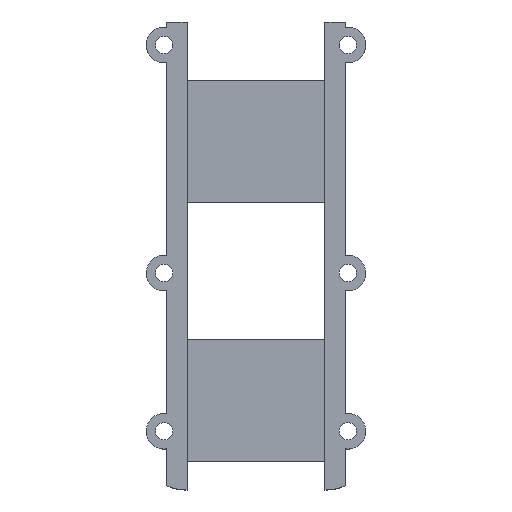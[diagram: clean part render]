
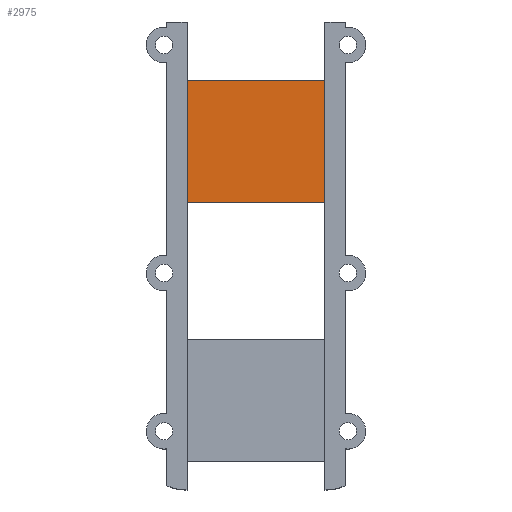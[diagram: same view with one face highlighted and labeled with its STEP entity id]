
A CAD part, top view. The second image highlights one B-rep face of the part: STEP entity #2975.
In plain terms, the highlighted planar face has unit normal (0, 0, 1).
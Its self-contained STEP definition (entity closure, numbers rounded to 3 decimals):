
#126 = PLANE('',#127);
#127 = AXIS2_PLACEMENT_3D('',#128,#129,#130);
#128 = CARTESIAN_POINT('',(10.5,95.2,-7.));
#129 = DIRECTION('',(1.,0.,-0.));
#130 = DIRECTION('',(0.,-1.,0.));
#233 = PLANE('',#234);
#234 = AXIS2_PLACEMENT_3D('',#235,#236,#237);
#235 = CARTESIAN_POINT('',(37.5,1.5,-7.));
#236 = DIRECTION('',(-1.,0.,0.));
#237 = DIRECTION('',(0.,1.,0.));
#568 = PLANE('',#569);
#569 = AXIS2_PLACEMENT_3D('',#570,#571,#572);
#570 = CARTESIAN_POINT('',(38.5,82.8,-8.));
#571 = DIRECTION('',(0.,-1.,0.));
#572 = DIRECTION('',(-1.,0.,0.));
#988 = PLANE('',#989);
#989 = AXIS2_PLACEMENT_3D('',#990,#991,#992);
#990 = CARTESIAN_POINT('',(9.5,58.8,-8.));
#991 = DIRECTION('',(0.,1.,0.));
#992 = DIRECTION('',(1.,0.,0.));
#1547 = VERTEX_POINT('',#1548);
#1548 = CARTESIAN_POINT('',(10.5,58.8,-3.6));
#1568 = EDGE_CURVE('',#1569,#1547,#1571,.T.);
#1569 = VERTEX_POINT('',#1570);
#1570 = CARTESIAN_POINT('',(10.5,82.8,-3.6));
#1571 = SURFACE_CURVE('',#1572,(#1576,#1583),.PCURVE_S1.);
#1572 = LINE('',#1573,#1574);
#1573 = CARTESIAN_POINT('',(10.5,95.2,-3.6));
#1574 = VECTOR('',#1575,1.);
#1575 = DIRECTION('',(0.,-1.,0.));
#1576 = PCURVE('',#126,#1577);
#1577 = DEFINITIONAL_REPRESENTATION('',(#1578),#1582);
#1578 = LINE('',#1579,#1580);
#1579 = CARTESIAN_POINT('',(0.,-3.4));
#1580 = VECTOR('',#1581,1.);
#1581 = DIRECTION('',(1.,0.));
#1582 = ( GEOMETRIC_REPRESENTATION_CONTEXT(2) 
PARAMETRIC_REPRESENTATION_CONTEXT() REPRESENTATION_CONTEXT('2D SPACE',''
  ) );
#1583 = PCURVE('',#1584,#1589);
#1584 = PLANE('',#1585);
#1585 = AXIS2_PLACEMENT_3D('',#1586,#1587,#1588);
#1586 = CARTESIAN_POINT('',(24.,48.35,-3.6));
#1587 = DIRECTION('',(0.,0.,1.));
#1588 = DIRECTION('',(1.,0.,-0.));
#1589 = DEFINITIONAL_REPRESENTATION('',(#1590),#1594);
#1590 = LINE('',#1591,#1592);
#1591 = CARTESIAN_POINT('',(-13.5,46.85));
#1592 = VECTOR('',#1593,1.);
#1593 = DIRECTION('',(0.,-1.));
#1594 = ( GEOMETRIC_REPRESENTATION_CONTEXT(2) 
PARAMETRIC_REPRESENTATION_CONTEXT() REPRESENTATION_CONTEXT('2D SPACE',''
  ) );
#1767 = VERTEX_POINT('',#1768);
#1768 = CARTESIAN_POINT('',(37.5,82.8,-3.6));
#1788 = EDGE_CURVE('',#1789,#1767,#1791,.T.);
#1789 = VERTEX_POINT('',#1790);
#1790 = CARTESIAN_POINT('',(37.5,58.8,-3.6));
#1791 = SURFACE_CURVE('',#1792,(#1796,#1803),.PCURVE_S1.);
#1792 = LINE('',#1793,#1794);
#1793 = CARTESIAN_POINT('',(37.5,1.5,-3.6));
#1794 = VECTOR('',#1795,1.);
#1795 = DIRECTION('',(0.,1.,0.));
#1796 = PCURVE('',#233,#1797);
#1797 = DEFINITIONAL_REPRESENTATION('',(#1798),#1802);
#1798 = LINE('',#1799,#1800);
#1799 = CARTESIAN_POINT('',(0.,-3.4));
#1800 = VECTOR('',#1801,1.);
#1801 = DIRECTION('',(1.,0.));
#1802 = ( GEOMETRIC_REPRESENTATION_CONTEXT(2) 
PARAMETRIC_REPRESENTATION_CONTEXT() REPRESENTATION_CONTEXT('2D SPACE',''
  ) );
#1803 = PCURVE('',#1584,#1804);
#1804 = DEFINITIONAL_REPRESENTATION('',(#1805),#1809);
#1805 = LINE('',#1806,#1807);
#1806 = CARTESIAN_POINT('',(13.5,-46.85));
#1807 = VECTOR('',#1808,1.);
#1808 = DIRECTION('',(0.,1.));
#1809 = ( GEOMETRIC_REPRESENTATION_CONTEXT(2) 
PARAMETRIC_REPRESENTATION_CONTEXT() REPRESENTATION_CONTEXT('2D SPACE',''
  ) );
#2349 = EDGE_CURVE('',#1569,#1767,#2350,.T.);
#2350 = SURFACE_CURVE('',#2351,(#2355,#2361),.PCURVE_S1.);
#2351 = LINE('',#2352,#2353);
#2352 = CARTESIAN_POINT('',(31.25,82.8,-3.6));
#2353 = VECTOR('',#2354,1.);
#2354 = DIRECTION('',(1.,0.,-0.));
#2355 = PCURVE('',#568,#2356);
#2356 = DEFINITIONAL_REPRESENTATION('',(#2357),#2360);
#2357 = B_SPLINE_CURVE_WITH_KNOTS('',1,(#2358,#2359),.UNSPECIFIED.,.F.,
  .F.,(2,2),(-20.75,6.25),.PIECEWISE_BEZIER_KNOTS.);
#2358 = CARTESIAN_POINT('',(28.,-4.4));
#2359 = CARTESIAN_POINT('',(1.,-4.4));
#2360 = ( GEOMETRIC_REPRESENTATION_CONTEXT(2) 
PARAMETRIC_REPRESENTATION_CONTEXT() REPRESENTATION_CONTEXT('2D SPACE',''
  ) );
#2361 = PCURVE('',#1584,#2362);
#2362 = DEFINITIONAL_REPRESENTATION('',(#2363),#2367);
#2363 = LINE('',#2364,#2365);
#2364 = CARTESIAN_POINT('',(7.25,34.45));
#2365 = VECTOR('',#2366,1.);
#2366 = DIRECTION('',(1.,0.));
#2367 = ( GEOMETRIC_REPRESENTATION_CONTEXT(2) 
PARAMETRIC_REPRESENTATION_CONTEXT() REPRESENTATION_CONTEXT('2D SPACE',''
  ) );
#2717 = EDGE_CURVE('',#1789,#1547,#2718,.T.);
#2718 = SURFACE_CURVE('',#2719,(#2723,#2729),.PCURVE_S1.);
#2719 = LINE('',#2720,#2721);
#2720 = CARTESIAN_POINT('',(16.75,58.8,-3.6));
#2721 = VECTOR('',#2722,1.);
#2722 = DIRECTION('',(-1.,0.,0.));
#2723 = PCURVE('',#988,#2724);
#2724 = DEFINITIONAL_REPRESENTATION('',(#2725),#2728);
#2725 = B_SPLINE_CURVE_WITH_KNOTS('',1,(#2726,#2727),.UNSPECIFIED.,.F.,
  .F.,(2,2),(-20.75,6.25),.PIECEWISE_BEZIER_KNOTS.);
#2726 = CARTESIAN_POINT('',(28.,-4.4));
#2727 = CARTESIAN_POINT('',(1.,-4.4));
#2728 = ( GEOMETRIC_REPRESENTATION_CONTEXT(2) 
PARAMETRIC_REPRESENTATION_CONTEXT() REPRESENTATION_CONTEXT('2D SPACE',''
  ) );
#2729 = PCURVE('',#1584,#2730);
#2730 = DEFINITIONAL_REPRESENTATION('',(#2731),#2735);
#2731 = LINE('',#2732,#2733);
#2732 = CARTESIAN_POINT('',(-7.25,10.45));
#2733 = VECTOR('',#2734,1.);
#2734 = DIRECTION('',(-1.,0.));
#2735 = ( GEOMETRIC_REPRESENTATION_CONTEXT(2) 
PARAMETRIC_REPRESENTATION_CONTEXT() REPRESENTATION_CONTEXT('2D SPACE',''
  ) );
#2975 = ADVANCED_FACE('',(#2976),#1584,.T.);
#2976 = FACE_BOUND('',#2977,.T.);
#2977 = EDGE_LOOP('',(#2978,#2979,#2980,#2981));
#2978 = ORIENTED_EDGE('',*,*,#2349,.F.);
#2979 = ORIENTED_EDGE('',*,*,#1568,.T.);
#2980 = ORIENTED_EDGE('',*,*,#2717,.F.);
#2981 = ORIENTED_EDGE('',*,*,#1788,.T.);
